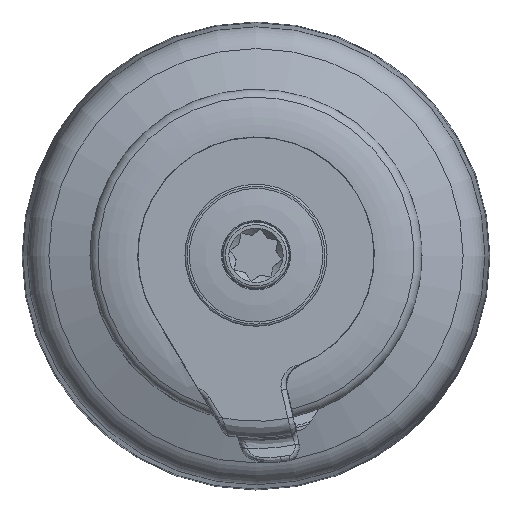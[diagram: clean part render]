
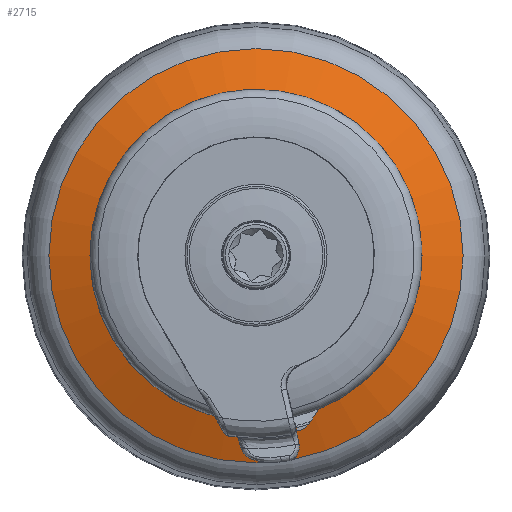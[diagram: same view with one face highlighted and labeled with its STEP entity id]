
A CAD part, top view. The second image highlights one B-rep face of the part: STEP entity #2715.
In plain terms, the highlighted conical face has half-angle 70 degrees and reference radius 82.83 mm.
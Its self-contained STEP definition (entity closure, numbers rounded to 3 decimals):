
#156=CONICAL_SURFACE('',#2992,82.83,70.);
#512=FACE_BOUND('',#844,.T.);
#646=FACE_OUTER_BOUND('',#843,.T.);
#843=EDGE_LOOP('',(#2252));
#844=EDGE_LOOP('',(#2253));
#1055=CIRCLE('',#2991,99.147);
#1056=CIRCLE('',#2993,71.844);
#1294=VERTEX_POINT('',#4787);
#1295=VERTEX_POINT('',#4790);
#1636=EDGE_CURVE('',#1294,#1294,#1055,.T.);
#1637=EDGE_CURVE('',#1295,#1295,#1056,.T.);
#2252=ORIENTED_EDGE('',*,*,#1636,.T.);
#2253=ORIENTED_EDGE('',*,*,#1637,.F.);
#2715=ADVANCED_FACE('',(#646,#512),#156,.T.);
#2991=AXIS2_PLACEMENT_3D('',#4788,#3580,#3581);
#2992=AXIS2_PLACEMENT_3D('',#4789,#3582,#3583);
#2993=AXIS2_PLACEMENT_3D('',#4791,#3584,#3585);
#3580=DIRECTION('center_axis',(0.,0.,
1.));
#3581=DIRECTION('ref_axis',(1.,0.,0.));
#3582=DIRECTION('center_axis',(0.,0.,
-1.));
#3583=DIRECTION('ref_axis',(1.,0.,0.));
#3584=DIRECTION('center_axis',(0.,0.,
1.));
#3585=DIRECTION('ref_axis',(1.,0.,0.));
#4787=CARTESIAN_POINT('',(99.147,0.,74.898));
#4788=CARTESIAN_POINT('Origin',(0.,0.,
74.898));
#4789=CARTESIAN_POINT('Origin',(0.,0.,
80.837));
#4790=CARTESIAN_POINT('',(71.844,0.,84.836));
#4791=CARTESIAN_POINT('Origin',(0.,0.,
84.836));
